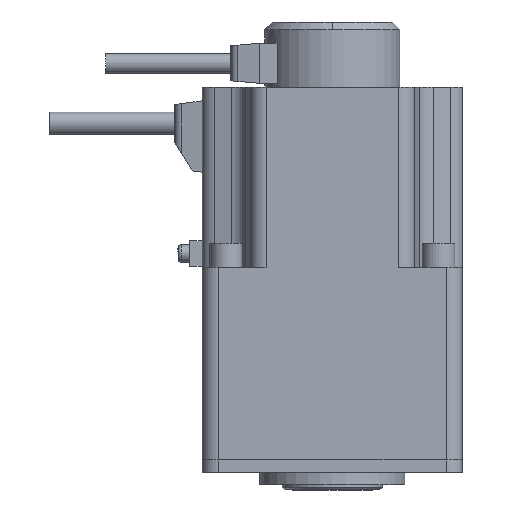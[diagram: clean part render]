
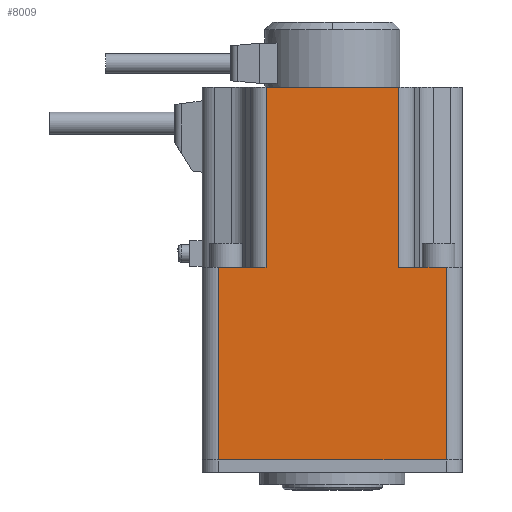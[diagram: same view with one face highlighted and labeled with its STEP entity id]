
A CAD part, front view. The second image highlights one B-rep face of the part: STEP entity #8009.
In plain terms, the highlighted planar face has unit normal (0, -1, 0).
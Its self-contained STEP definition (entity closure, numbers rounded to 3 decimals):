
#20 = VECTOR ( 'NONE', #9838, 1000. ) ;
#83 = VECTOR ( 'NONE', #10473, 1000. ) ;
#95 = VECTOR ( 'NONE', #10167, 1000. ) ;
#139 = VECTOR ( 'NONE', #10650, 1000. ) ;
#169 = LINE ( 'NONE', #10860, #139 ) ;
#185 = LINE ( 'NONE', #10002, #20 ) ;
#213 = LINE ( 'NONE', #10178, #95 ) ;
#278 = LINE ( 'NONE', #10545, #83 ) ;
#383 = AXIS2_PLACEMENT_3D ( 'NONE', #5324, #5239, #5237 ) ;
#403 = CARTESIAN_POINT ( 'NONE',  ( -45.5, -52., -67. ) ) ;
#430 = LINE ( 'NONE', #10334, #1024 ) ;
#574 = CARTESIAN_POINT ( 'NONE',  ( 45.5, -52., 10. ) ) ;
#1024 = VECTOR ( 'NONE', #10098, 1000. ) ;
#1619 = VERTEX_POINT ( 'NONE', #9074 ) ;
#1631 = CARTESIAN_POINT ( 'NONE',  ( -26.5, -52., 82. ) ) ;
#1635 = EDGE_CURVE ( 'NONE', #11325, #4400, #8696, .T. ) ;
#1714 = VERTEX_POINT ( 'NONE', #8490 ) ;
#1924 = LINE ( 'NONE', #10039, #7698 ) ;
#2708 = VERTEX_POINT ( 'NONE', #1631 ) ;
#3248 = EDGE_LOOP ( 'NONE', ( #11837, #11362, #10897, #10483, #9996, #9346, #8845, #8386 ) ) ;
#3886 = EDGE_CURVE ( 'NONE', #4400, #1714, #7965, .T. ) ;
#4400 = VERTEX_POINT ( 'NONE', #10042 ) ;
#5237 = DIRECTION ( 'NONE',  ( -1., 0., 0. ) ) ;
#5239 = DIRECTION ( 'NONE',  ( 0., 1., 0. ) ) ;
#5257 = PLANE ( 'NONE',  #383 ) ;
#5324 = CARTESIAN_POINT ( 'NONE',  ( 52., -52., 82. ) ) ;
#5334 = CARTESIAN_POINT ( 'NONE',  ( 52., -52., 10. ) ) ;
#5517 = EDGE_CURVE ( 'NONE', #1714, #2708, #169, .T. ) ;
#5538 = EDGE_CURVE ( 'NONE', #1619, #11325, #278, .T. ) ;
#5554 = EDGE_CURVE ( 'NONE', #8883, #1619, #213, .T. ) ;
#5557 = EDGE_CURVE ( 'NONE', #8883, #6005, #430, .T. ) ;
#5575 = EDGE_CURVE ( 'NONE', #7368, #6005, #1924, .T. ) ;
#5578 = EDGE_CURVE ( 'NONE', #2708, #7368, #185, .T. ) ;
#6005 = VERTEX_POINT ( 'NONE', #11889 ) ;
#7368 = VERTEX_POINT ( 'NONE', #10638 ) ;
#7698 = VECTOR ( 'NONE', #10294, 1000. ) ;
#7773 = VECTOR ( 'NONE', #11995, 1000. ) ;
#7965 = LINE ( 'NONE', #5334, #7773 ) ;
#8009 = ADVANCED_FACE ( 'NONE', ( #8387 ), #5257, .F. ) ;
#8386 = ORIENTED_EDGE ( 'NONE', *, *, #1635, .F. ) ;
#8387 = FACE_OUTER_BOUND ( 'NONE', #3248, .T. ) ;
#8490 = CARTESIAN_POINT ( 'NONE',  ( -26.5, -52., 10. ) ) ;
#8696 = LINE ( 'NONE', #9012, #8798 ) ;
#8798 = VECTOR ( 'NONE', #8877, 1000. ) ;
#8845 = ORIENTED_EDGE ( 'NONE', *, *, #3886, .F. ) ;
#8877 = DIRECTION ( 'NONE',  ( 0., 0., 1. ) ) ;
#8883 = VERTEX_POINT ( 'NONE', #574 ) ;
#9012 = CARTESIAN_POINT ( 'NONE',  ( -45.5, -52., 82. ) ) ;
#9074 = CARTESIAN_POINT ( 'NONE',  ( 45.5, -52., -67. ) ) ;
#9346 = ORIENTED_EDGE ( 'NONE', *, *, #5517, .F. ) ;
#9838 = DIRECTION ( 'NONE',  ( 1., 0., 0. ) ) ;
#9996 = ORIENTED_EDGE ( 'NONE', *, *, #5578, .F. ) ;
#10002 = CARTESIAN_POINT ( 'NONE',  ( -52., -52., 82. ) ) ;
#10039 = CARTESIAN_POINT ( 'NONE',  ( 26.5, -52., 82. ) ) ;
#10042 = CARTESIAN_POINT ( 'NONE',  ( -45.5, -52., 10. ) ) ;
#10098 = DIRECTION ( 'NONE',  ( -1., 0., 0. ) ) ;
#10167 = DIRECTION ( 'NONE',  ( 0., 0., -1. ) ) ;
#10178 = CARTESIAN_POINT ( 'NONE',  ( 45.5, -52., 82. ) ) ;
#10294 = DIRECTION ( 'NONE',  ( 0., 0., -1. ) ) ;
#10334 = CARTESIAN_POINT ( 'NONE',  ( 0.244, -52., 10. ) ) ;
#10473 = DIRECTION ( 'NONE',  ( -1., 0., 0. ) ) ;
#10483 = ORIENTED_EDGE ( 'NONE', *, *, #5575, .F. ) ;
#10545 = CARTESIAN_POINT ( 'NONE',  ( -52., -52., -67. ) ) ;
#10638 = CARTESIAN_POINT ( 'NONE',  ( 26.5, -52., 82. ) ) ;
#10650 = DIRECTION ( 'NONE',  ( 0., 0., 1. ) ) ;
#10860 = CARTESIAN_POINT ( 'NONE',  ( -26.5, -52., 82. ) ) ;
#10897 = ORIENTED_EDGE ( 'NONE', *, *, #5557, .T. ) ;
#11325 = VERTEX_POINT ( 'NONE', #403 ) ;
#11362 = ORIENTED_EDGE ( 'NONE', *, *, #5554, .F. ) ;
#11837 = ORIENTED_EDGE ( 'NONE', *, *, #5538, .F. ) ;
#11889 = CARTESIAN_POINT ( 'NONE',  ( 26.5, -52., 10. ) ) ;
#11995 = DIRECTION ( 'NONE',  ( 1., 0., 0. ) ) ;
